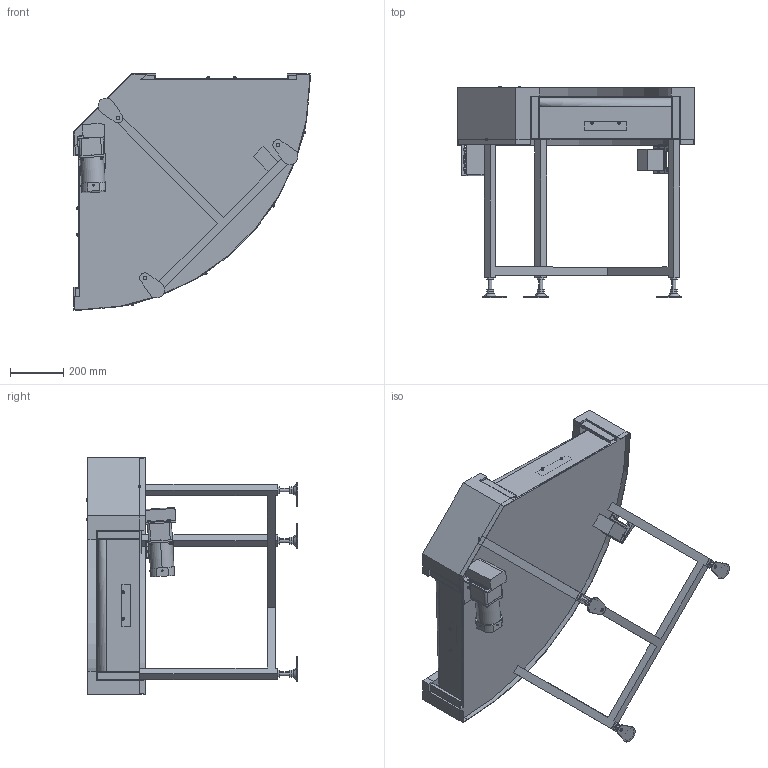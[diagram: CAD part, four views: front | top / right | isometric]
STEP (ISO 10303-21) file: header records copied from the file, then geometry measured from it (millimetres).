
FILE_DESCRIPTION( (''), '2;1');
FILE_NAME ('MBC2H-UD-309-500-90°-L-K-60-O.stp','2025-02-17T11:12:46',(''),(''),'spGate 20.6.2 (****-****-****-****)','','');
FILE_SCHEMA (('AUTOMOTIVE_DESIGN'));
Length unit declared in the file: millimetre
Products named in the file (46): NewModel; MBC2H-UD-309-500-90°-L-K-60-O; TEMP_X_T-prt0; TEMP_X_T-prt1; TEMP_X_T-prt2; TEMP_X_T-prt3; TEMP_X_T-prt4; TEMP_X_T-prt5; TEMP_X_T-prt6; TEMP_X_T-prt7; TEMP_X_T-prt8; TEMP_X_T-prt9; TEMP_X_T-prt10; TEMP_X_T-prt11; TEMP_X_T-prt12; TEMP_X_T-prt13; TEMP_X_T-prt14; TEMP_X_T-prt15; TEMP_X_T-prt16; TEMP_X_T-prt17; TEMP_X_T-prt18; TEMP_X_T-prt19; TEMP_X_T-prt20; TEMP_X_T-prt21; TEMP_X_T-prt22; TEMP_X_T-prt23; TEMP_X_T-prt24; TEMP_X_T-prt25; TEMP_X_T-prt26; TEMP_X_T-prt27; TEMP_X_T-prt28; TEMP_X_T-prt29; TEMP_X_T-prt30; TEMP_X_T-prt31; TEMP_X_T-prt32; TEMP_X_T-prt33; TEMP_X_T-prt34; TEMP_X_T-prt35; TEMP_X_T-prt36; TEMP_X_T-prt37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
Assembly tree (45 placements, depth 3):
  NewModel
    MBC2H-UD-309-500-90°-L-K-60-O
      TEMP_X_T-prt0
      TEMP_X_T-prt1
      TEMP_X_T-prt2
      TEMP_X_T-prt3
      TEMP_X_T-prt4
      TEMP_X_T-prt5
      TEMP_X_T-prt6
      TEMP_X_T-prt7
      TEMP_X_T-prt8
      TEMP_X_T-prt9
      TEMP_X_T-prt10
      TEMP_X_T-prt11
      TEMP_X_T-prt12
      TEMP_X_T-prt13
      TEMP_X_T-prt14
      TEMP_X_T-prt15
      TEMP_X_T-prt16
      TEMP_X_T-prt17
      TEMP_X_T-prt18
      TEMP_X_T-prt19
      TEMP_X_T-prt20
      TEMP_X_T-prt21
      TEMP_X_T-prt22
      TEMP_X_T-prt23
      TEMP_X_T-prt24
      TEMP_X_T-prt25
      TEMP_X_T-prt26
      TEMP_X_T-prt27
      TEMP_X_T-prt28
      TEMP_X_T-prt29
      TEMP_X_T-prt30
      TEMP_X_T-prt31
      TEMP_X_T-prt32
      TEMP_X_T-prt33
      TEMP_X_T-prt34
      TEMP_X_T-prt35
      TEMP_X_T-prt36
      TEMP_X_T-prt37
      TEMP_X_T-prt38
      TEMP_X_T-prt39
      TEMP_X_T-prt40
      TEMP_X_T-prt41
      TEMP_X_T-prt42
      TEMP_X_T-prt43
Bounding box: 888.1 x 794.6 x 888.1 mm (x, y, z)
Volume: 68786343.3 mm3; surface area: 4106597.4 mm2
Topology: 44 solids, 44 shells, 1178 faces, 2686 edges, 1692 vertices
Faces by surface type: plane 613, cylinder 310, bspline 255
Entity records: 60958 total; most frequent: CARTESIAN_POINT 12315, ORIENTED_EDGE 5372, DIRECTION 4975, COLOUR_RGB 3908, PRESENTATION_STYLE_ASSIGNMENT 3908, STYLED_ITEM 3908, EDGE_CURVE 2686, DRAUGHTING_PRE_DEFINED_CURVE_FONT 2686
